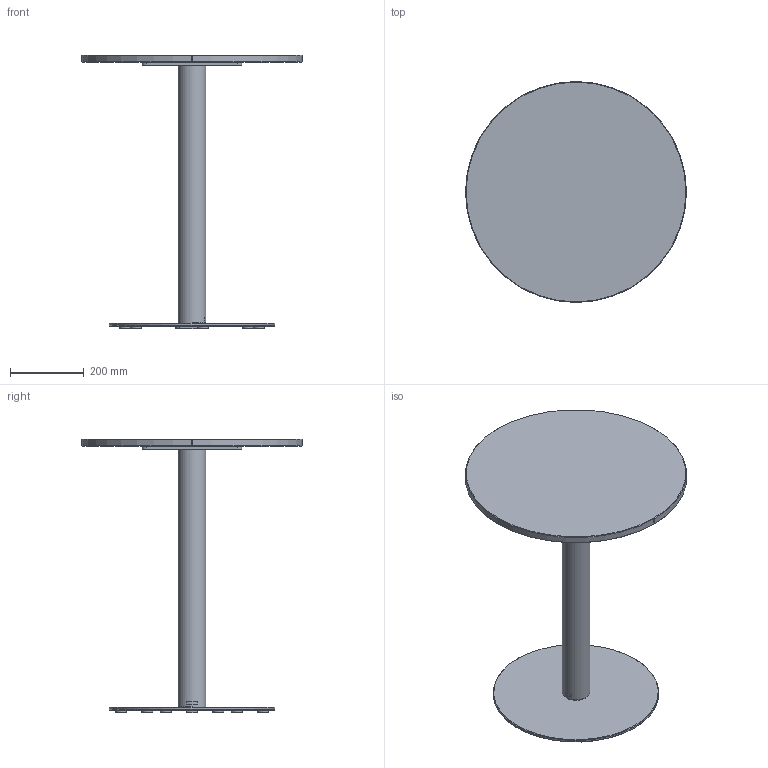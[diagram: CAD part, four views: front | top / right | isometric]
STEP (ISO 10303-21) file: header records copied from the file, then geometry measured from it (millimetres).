
FILE_DESCRIPTION( ('This file contains a STEP AP42 implementation' ,'as created by ZW3D STEP Interface translator.') ,'2;1' );
FILE_NAME( 'Henri - B_Rond - F1 - M1 - 600 x 600 x 750.stp' ,'24 912.15 335', (''), ('ZWCAD Software Co.'), 'Version 1.0', 'ZW3D to STEP translator', '' );
FILE_SCHEMA(('AUTOMOTIVE_DESIGN { 1 0 10303 214 1 1 1 1 }'));
Length unit declared in the file: millimetre
Products named in the file (14): 0; PIED BISTROT PARAMETRIQUE_; COLONNE ACIER Ø76 V.02_; TUB-D076-02_; PLA-R76B-01_; SOCLE ACIER C Ø450 V.02_; SCL-D450-02_; PLA-R30A-01_; PLA-R30A-01; CROIX ACIER 370 V.02_; CRX-X370-02_; WUERTH 0276063020 Euro-screw 6.3x2 Verzinkt_; PLATEAU BISTROT PARAMETRIQUE_; insert_m6_13_
Assembly tree (24 placements, depth 3):
  0
  PIED BISTROT PARAMETRIQUE_
    COLONNE ACIER Ø76 V.02_
      TUB-D076-02_
      PLA-R76B-01_  x2
    SOCLE ACIER C Ø450 V.02_
      SCL-D450-02_
      PLA-R30A-01_
      PLA-R30A-01  x5
    CROIX ACIER 370 V.02_
      CRX-X370-02_
    WUERTH 0276063020 Euro-screw 6.3x2 Verzinkt_
    PLATEAU BISTROT PARAMETRIQUE_
      insert_m6_13_  x8
Bounding box: 600 x 600 x 744 mm (x, y, z)
Volume: 7878137.6 mm3; surface area: 1455134.1 mm2
Topology: 21 solids, 21 shells, 524 faces, 1273 edges, 802 vertices
Faces by surface type: plane 254, bspline 121, cylinder 99, cone 49, torus 1
Full cylindrical faces by diameter (mm): 4.88 x1, 6 x8, 6.3 x1, 8 x47, 12 x2, 14 x2, 30 x6, 72 x1, 76 x1, 450 x1
Entity records: 11734 total; most frequent: CARTESIAN_POINT 3302, ORIENTED_EDGE 1526, DIRECTION 1424, EDGE_CURVE 763, VERTEX_POINT 490, VECTOR 476, LINE 476, AXIS2_PLACEMENT_3D 474
